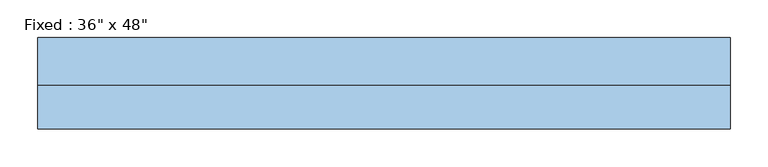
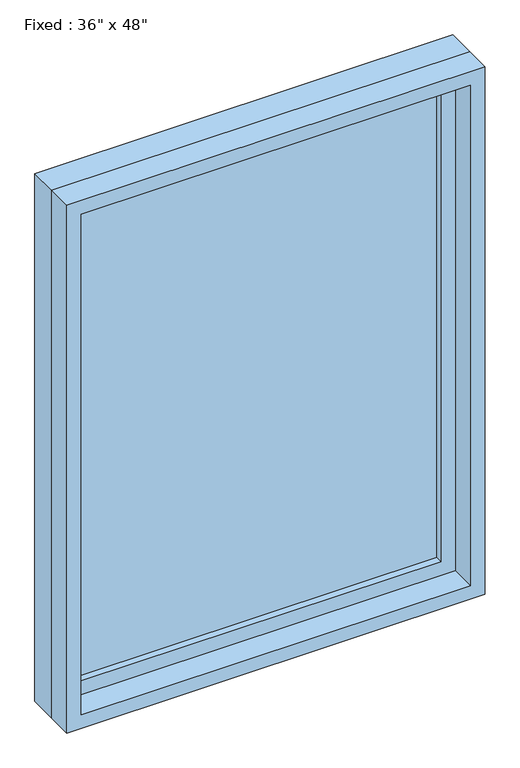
"""IFC4 building model written with IfcOpenShell, lengths in millimetres: window geometry."""

from ifc_helpers import new_model, si_unit, frame, origin, place, context, project, spatial, polyline, outline, extrude, source, transform, mapped, element, save


def window_51f22951(model_context):
    return source(origin(), model_context, "Body", "SweptSolid", [
        extrude(outline(polyline([(355.6, 12.7), (-431.8, 12.7), (-431.8, 25.4), (355.6, 25.4), (355.6, 12.7)])), frame((0.0, 0.0, 977.9), z_axis=(0.0, 0.0, 1.0), x_axis=(1.0, 0.0, 0.0)), (0.0, 0.0, 1.0), 1092.2),
        extrude(outline(polyline([(2114.55, -476.25), (933.45, -476.25), (933.45, 400.05), (2114.55, 400.05), (2114.55, -476.25)]), holes=[polyline([(2070.1, -431.8), (2070.1, 355.6), (977.9, 355.6), (977.9, -431.8), (2070.1, -431.8)])]), frame((0.0, -3.175, 0.0), z_axis=(0.0, 1.0, 0.0), x_axis=(0.0, 0.0, 1.0)), (0.0, 0.0, 1.0), 44.45),
        extrude(outline(polyline([(2133.6, -495.3), (914.4, -495.3), (914.4, 419.1), (2133.6, 419.1), (2133.6, -495.3)]), holes=[polyline([(2101.85, -463.55), (2101.85, 387.35), (946.15, 387.35), (946.15, -463.55), (2101.85, -463.55)])]), frame((0.0, -60.325, 0.0), z_axis=(0.0, 1.0, 0.0), x_axis=(0.0, 0.0, 1.0)), (0.0, 0.0, 1.0), 57.15),
        extrude(outline(polyline([(2133.6, 419.1), (2133.6, -495.3), (914.4, -495.3), (914.4, 419.1), (2133.6, 419.1)]), holes=[polyline([(2114.55, 400.05), (933.45, 400.05), (933.45, -476.25), (2114.55, -476.25), (2114.55, 400.05)])]), frame((0.0, -3.175, 0.0), z_axis=(0.0, 1.0, 0.0), x_axis=(0.0, 0.0, 1.0)), (0.0, 0.0, 1.0), 63.5),
    ])


if __name__ == "__main__":
    model = new_model("IFC4")
    model_context = context("Model", 3, world=origin())
    ifc_project = project(units=[si_unit("LENGTHUNIT", "METRE", prefix="MILLI")], contexts=[model_context])
    site = spatial("IfcSite", under=ifc_project)
    building = spatial("IfcBuilding", under=site)
    placement = place(None, origin())
    window_shape = window_51f22951(model_context)
    element("IfcWindow", 1, ObjectType="Fixed : 36\" x 48\"", at=placement, inside=building, context=model_context, shape_type="MappedRepresentation", body=[
        mapped(window_shape, transform((0.0, 0.0, 0.0), x_axis=(1.0, 0.0, 0.0), y_axis=(0.0, 1.0, 0.0), z_axis=(0.0, 0.0, 1.0))),
    ])
    save(model, "model.ifc")
